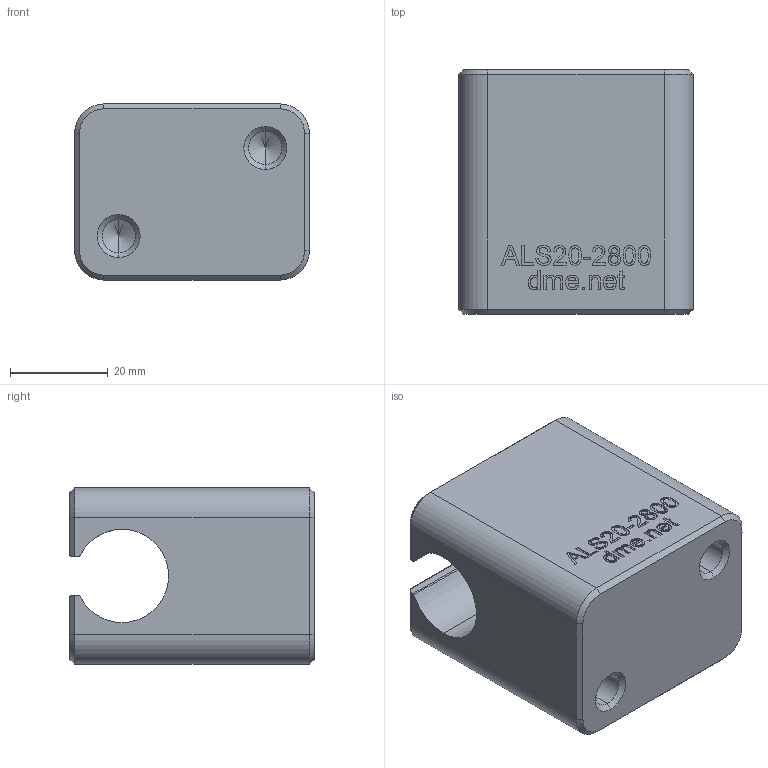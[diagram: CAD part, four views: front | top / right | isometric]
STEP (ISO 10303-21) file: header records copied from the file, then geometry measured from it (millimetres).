
FILE_DESCRIPTION (( 'STEP AP203' ), '1' );
FILE_NAME ('ALS20-2800_Shoe.STEP', '2020-12-21T20:23:56', ( '' ), ( '' ), 'SwSTEP 2.0', 'SolidWorks 2020', '' );
FILE_SCHEMA (( 'CONFIG_CONTROL_DESIGN' ));
Length unit declared in the file: millimetre
Products named in the file (1): ALS20-2800_Shoe
Bounding box: 48 x 50 x 36 mm (x, y, z)
Volume: 69205.7 mm3; surface area: 13503.3 mm2
Topology: 1 solids, 1 shells, 279 faces, 729 edges, 476 vertices
Faces by surface type: bspline 125, plane 123, cone 16, cylinder 15
Entity records: 15367 total; most frequent: CARTESIAN_POINT 9304, ORIENTED_EDGE 1450, DIRECTION 816, EDGE_CURVE 725, VERTEX_POINT 476, VECTOR 432, LINE 432, EDGE_LOOP 307
